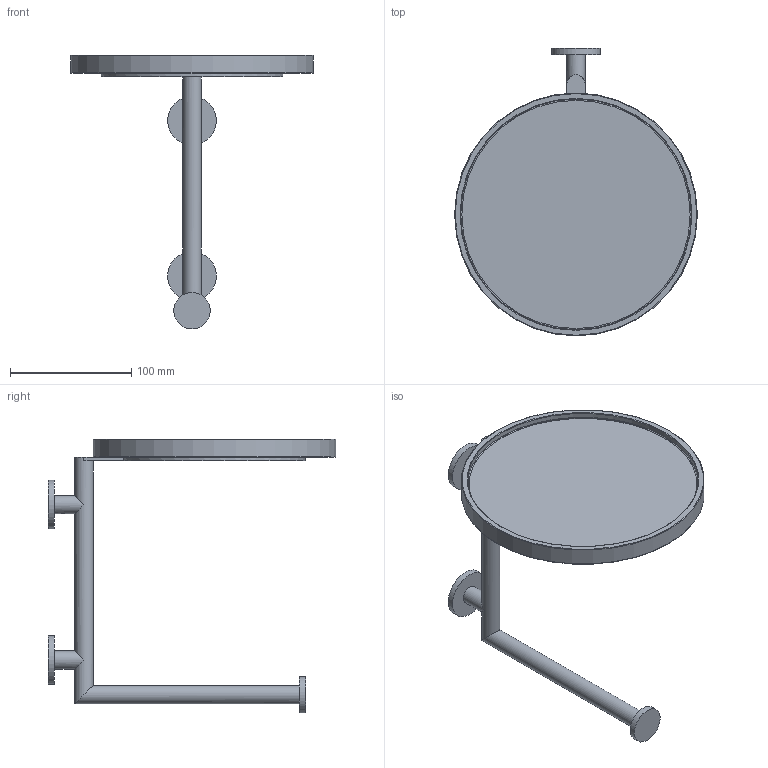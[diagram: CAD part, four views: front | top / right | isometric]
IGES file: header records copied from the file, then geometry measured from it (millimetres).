
Start section: Data from Parasolid IGES Translator 22.0.50, Copyright(c) 2006 Siemens P LM Software. All Rights Reserved.
Global section: file name: noorth_ZENO_H21,5_D23,7_W20_4362.igs; native system: By Siemens PLM Incorporated; preprocessor: XPlus GENERIC/IGES 22.0.50; author: Noname; organization: Noname; date: 20251123.103404; units: metre
Bounding box: 200 x 237 x 225.5 mm (x, y, z)
Volume: 464863.2 mm3; surface area: 144347.3 mm2
Topology: 2 solids, 2 shells, 38 faces, 88 edges, 60 vertices
Faces by surface type: cylinder 17, plane 15, torus 6
Full cylindrical faces by diameter (mm): 3.242 x2, 12 x2, 15 x4, 30 x1, 40 x2, 150 x1, 156 x1, 190 x1, 200 x1
